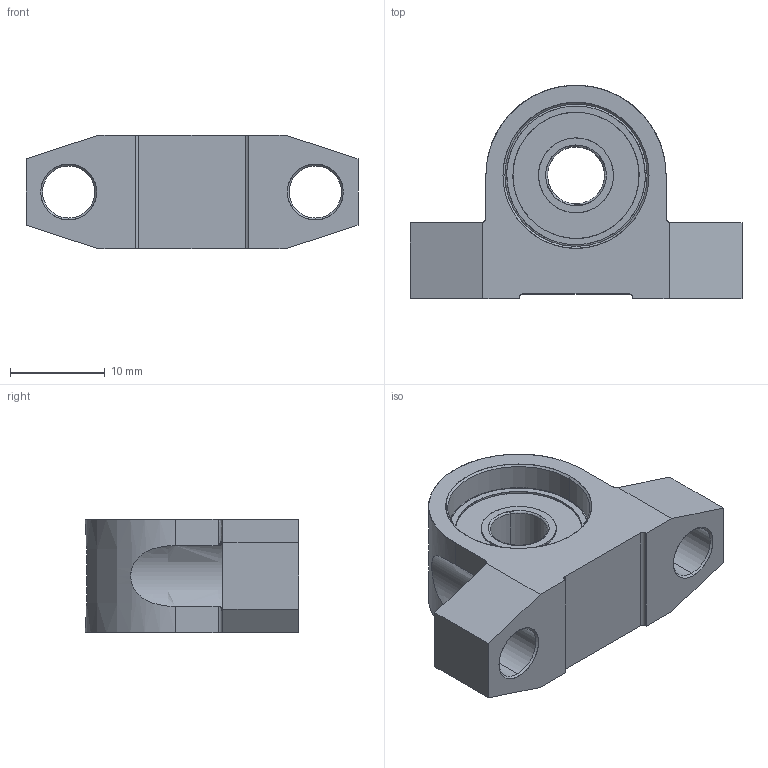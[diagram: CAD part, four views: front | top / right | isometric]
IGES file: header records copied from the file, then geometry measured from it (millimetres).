
Start section: SolidWorks IGES file using analytic representation for surfaces
Global section: file name: C:\Users\watanabe\Desktop\MSU-6\MSU6CS.IGS; native system: SolidWorks 2010; preprocessor: SolidWorks 2010; author: watanabe; date: 120613.103623; units: millimetre
Bounding box: 35 x 22.5 x 12 mm (x, y, z)
Surface area: 3267.1 mm2 (no closed solid volume)
Topology: 0 solids, 0 shells, 72 faces, 1048 edges, 1048 vertices
Faces by surface type: revolution 39, bspline 33
